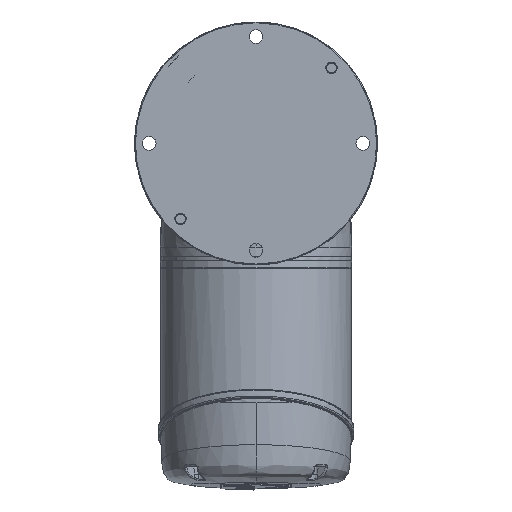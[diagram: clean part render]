
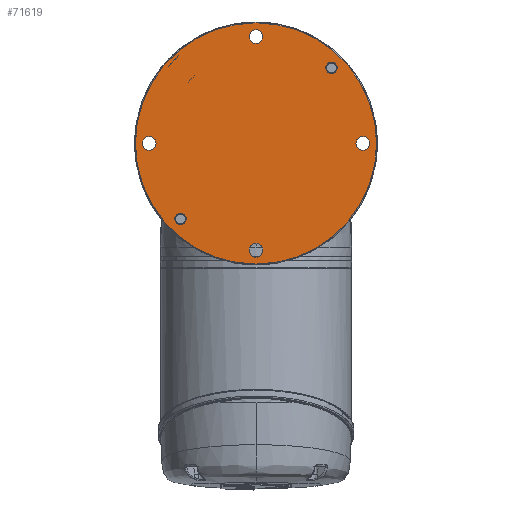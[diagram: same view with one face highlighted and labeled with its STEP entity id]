
A CAD part, front view. The second image highlights one B-rep face of the part: STEP entity #71619.
In plain terms, the highlighted planar face has unit normal (0, -1, 0).
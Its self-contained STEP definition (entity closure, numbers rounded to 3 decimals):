
#397 = VERTEX_POINT ( 'NONE', #81628 ) ;
#960 = EDGE_CURVE ( 'NONE', #16638, #91037, #163017, .T. ) ;
#1590 = ORIENTED_EDGE ( 'NONE', *, *, #100086, .F. ) ;
#3585 = CIRCLE ( 'NONE', #98879, 4.25 ) ;
#3751 = DIRECTION ( 'NONE',  ( 0., 0., 1. ) ) ;
#3990 = DIRECTION ( 'NONE',  ( 0., -1., 0. ) ) ;
#5277 = DIRECTION ( 'NONE',  ( 0., -1., 0. ) ) ;
#7418 = ORIENTED_EDGE ( 'NONE', *, *, #60279, .F. ) ;
#10855 = CARTESIAN_POINT ( 'NONE',  ( 0., 64.08, 190.055 ) ) ;
#11192 = CARTESIAN_POINT ( 'NONE',  ( 66., 64.08, 124.055 ) ) ;
#13084 = EDGE_CURVE ( 'NONE', #76966, #79719, #111145, .T. ) ;
#13887 = DIRECTION ( 'NONE',  ( 0., 0., 1. ) ) ;
#14065 = EDGE_CURVE ( 'NONE', #91037, #16638, #17758, .T. ) ;
#14708 = CARTESIAN_POINT ( 'NONE',  ( 46.669, 64.08, 169.974 ) ) ;
#16638 = VERTEX_POINT ( 'NONE', #43768 ) ;
#17758 = CIRCLE ( 'NONE', #167357, 3.5 ) ;
#25992 = ORIENTED_EDGE ( 'NONE', *, *, #77030, .T. ) ;
#26889 = FACE_BOUND ( 'NONE', #73409, .T. ) ;
#29023 = FACE_BOUND ( 'NONE', #73207, .T. ) ;
#29104 = CARTESIAN_POINT ( 'NONE',  ( 0., 64.08, 49.555 ) ) ;
#30390 = EDGE_LOOP ( 'NONE', ( #123931, #25992 ) ) ;
#30824 = DIRECTION ( 'NONE',  ( 0., 0., -1. ) ) ;
#32173 = DIRECTION ( 'NONE',  ( 0., 0., -1. ) ) ;
#36687 = DIRECTION ( 'NONE',  ( 0., 0., 1. ) ) ;
#38958 = EDGE_CURVE ( 'NONE', #75498, #139771, #125641, .T. ) ;
#39519 = PLANE ( 'NONE',  #163386 ) ;
#41352 = VERTEX_POINT ( 'NONE', #151213 ) ;
#42486 = CARTESIAN_POINT ( 'NONE',  ( -46.669, 64.08, 73.136 ) ) ;
#43768 = CARTESIAN_POINT ( 'NONE',  ( 46.669, 64.08, 162.974 ) ) ;
#43888 = DIRECTION ( 'NONE',  ( 0., 0., -1. ) ) ;
#44127 = EDGE_CURVE ( 'NONE', #79719, #76966, #126532, .T. ) ;
#45660 = ORIENTED_EDGE ( 'NONE', *, *, #63251, .F. ) ;
#45881 = CARTESIAN_POINT ( 'NONE',  ( 66., 64.08, 119.805 ) ) ;
#45890 = CARTESIAN_POINT ( 'NONE',  ( -66., 64.08, 119.805 ) ) ;
#48469 = DIRECTION ( 'NONE',  ( 0., 0., -1. ) ) ;
#48548 = EDGE_CURVE ( 'NONE', #138969, #134099, #75409, .T. ) ;
#49999 = AXIS2_PLACEMENT_3D ( 'NONE', #155409, #91334, #129967 ) ;
#50454 = AXIS2_PLACEMENT_3D ( 'NONE', #86490, #121670, #112607 ) ;
#51461 = DIRECTION ( 'NONE',  ( 0., -1., 0. ) ) ;
#52585 = DIRECTION ( 'NONE',  ( 0., 0., 1. ) ) ;
#53317 = CIRCLE ( 'NONE', #49999, 4.25 ) ;
#53950 = DIRECTION ( 'NONE',  ( 0., 0., -1. ) ) ;
#54433 = DIRECTION ( 'NONE',  ( 0., 1., 0. ) ) ;
#55334 = CIRCLE ( 'NONE', #125973, 4.25 ) ;
#59486 = DIRECTION ( 'NONE',  ( 0., -1., 0. ) ) ;
#60279 = EDGE_CURVE ( 'NONE', #139771, #75498, #74798, .T. ) ;
#61022 = CIRCLE ( 'NONE', #156272, 74.5 ) ;
#63251 = EDGE_CURVE ( 'NONE', #111029, #41352, #3585, .T. ) ;
#67095 = VERTEX_POINT ( 'NONE', #100761 ) ;
#67523 = FACE_OUTER_BOUND ( 'NONE', #30390, .T. ) ;
#68223 = CARTESIAN_POINT ( 'NONE',  ( 0., 64.08, 194.305 ) ) ;
#68777 = CARTESIAN_POINT ( 'NONE',  ( 0., 64.08, 185.805 ) ) ;
#71034 = DIRECTION ( 'NONE',  ( 0., -1., 0. ) ) ;
#71619 = ADVANCED_FACE ( 'NONE', ( #166701, #106110, #67523, #132481, #97904, #29023, #26889 ), #39519, .F. ) ;
#72830 = EDGE_LOOP ( 'NONE', ( #7418, #75388 ) ) ;
#73207 = EDGE_LOOP ( 'NONE', ( #137880, #109155 ) ) ;
#73409 = EDGE_LOOP ( 'NONE', ( #1590, #106361 ) ) ;
#74228 = CARTESIAN_POINT ( 'NONE',  ( -66., 64.08, 115.555 ) ) ;
#74798 = CIRCLE ( 'NONE', #124739, 4.25 ) ;
#75388 = ORIENTED_EDGE ( 'NONE', *, *, #38958, .F. ) ;
#75409 = CIRCLE ( 'NONE', #81472, 4.25 ) ;
#75498 = VERTEX_POINT ( 'NONE', #11192 ) ;
#75694 = AXIS2_PLACEMENT_3D ( 'NONE', #105285, #159614, #3751 ) ;
#76966 = VERTEX_POINT ( 'NONE', #83229 ) ;
#77030 = EDGE_CURVE ( 'NONE', #397, #98668, #61022, .T. ) ;
#78363 = DIRECTION ( 'NONE',  ( 0., 0., 1. ) ) ;
#79239 = CARTESIAN_POINT ( 'NONE',  ( 66., 64.08, 115.555 ) ) ;
#79486 = DIRECTION ( 'NONE',  ( 0., 1., 0. ) ) ;
#79719 = VERTEX_POINT ( 'NONE', #90511 ) ;
#81472 = AXIS2_PLACEMENT_3D ( 'NONE', #45890, #85519, #84969 ) ;
#81628 = CARTESIAN_POINT ( 'NONE',  ( 0., 64.08, 45.305 ) ) ;
#83229 = CARTESIAN_POINT ( 'NONE',  ( -46.669, 64.08, 76.636 ) ) ;
#84969 = DIRECTION ( 'NONE',  ( 0., 0., -1. ) ) ;
#85519 = DIRECTION ( 'NONE',  ( 0., -1., 0. ) ) ;
#86211 = EDGE_LOOP ( 'NONE', ( #104000, #45660 ) ) ;
#86490 = CARTESIAN_POINT ( 'NONE',  ( 46.669, 64.08, 166.474 ) ) ;
#89931 = CARTESIAN_POINT ( 'NONE',  ( 0., 64.08, 119.805 ) ) ;
#90473 = EDGE_LOOP ( 'NONE', ( #157335, #100416 ) ) ;
#90511 = CARTESIAN_POINT ( 'NONE',  ( -46.669, 64.08, 69.636 ) ) ;
#91037 = VERTEX_POINT ( 'NONE', #14708 ) ;
#91226 = ORIENTED_EDGE ( 'NONE', *, *, #14065, .T. ) ;
#91334 = DIRECTION ( 'NONE',  ( 0., -1., 0. ) ) ;
#92521 = CARTESIAN_POINT ( 'NONE',  ( 46.669, 64.08, 166.474 ) ) ;
#95827 = CIRCLE ( 'NONE', #163228, 4.25 ) ;
#96075 = AXIS2_PLACEMENT_3D ( 'NONE', #45881, #59486, #164833 ) ;
#97904 = FACE_BOUND ( 'NONE', #72830, .T. ) ;
#98532 = EDGE_CURVE ( 'NONE', #41352, #111029, #55334, .T. ) ;
#98668 = VERTEX_POINT ( 'NONE', #68223 ) ;
#98879 = AXIS2_PLACEMENT_3D ( 'NONE', #145191, #3990, #53950 ) ;
#100086 = EDGE_CURVE ( 'NONE', #134099, #138969, #53317, .T. ) ;
#100416 = ORIENTED_EDGE ( 'NONE', *, *, #13084, .T. ) ;
#100761 = CARTESIAN_POINT ( 'NONE',  ( 0., 64.08, 58.055 ) ) ;
#101154 = ORIENTED_EDGE ( 'NONE', *, *, #960, .T. ) ;
#104000 = ORIENTED_EDGE ( 'NONE', *, *, #98532, .F. ) ;
#104069 = DIRECTION ( 'NONE',  ( 0., -1., 0. ) ) ;
#104630 = CARTESIAN_POINT ( 'NONE',  ( 0., 64.08, 119.805 ) ) ;
#105285 = CARTESIAN_POINT ( 'NONE',  ( -46.669, 64.08, 73.136 ) ) ;
#106110 = FACE_BOUND ( 'NONE', #160735, .T. ) ;
#106361 = ORIENTED_EDGE ( 'NONE', *, *, #48548, .F. ) ;
#109155 = ORIENTED_EDGE ( 'NONE', *, *, #154457, .F. ) ;
#109830 = DIRECTION ( 'NONE',  ( 0., -1., 0. ) ) ;
#111029 = VERTEX_POINT ( 'NONE', #10855 ) ;
#111145 = CIRCLE ( 'NONE', #113970, 3.5 ) ;
#112607 = DIRECTION ( 'NONE',  ( 0., 0., 1. ) ) ;
#113970 = AXIS2_PLACEMENT_3D ( 'NONE', #42486, #54433, #157548 ) ;
#115874 = CARTESIAN_POINT ( 'NONE',  ( 66., 64.08, 119.805 ) ) ;
#117758 = CARTESIAN_POINT ( 'NONE',  ( 0., 64.08, 119.805 ) ) ;
#121537 = CARTESIAN_POINT ( 'NONE',  ( 0., 64.08, 53.805 ) ) ;
#121670 = DIRECTION ( 'NONE',  ( 0., 1., 0. ) ) ;
#122315 = CARTESIAN_POINT ( 'NONE',  ( 0., 64.08, 53.805 ) ) ;
#123931 = ORIENTED_EDGE ( 'NONE', *, *, #161453, .T. ) ;
#123981 = CIRCLE ( 'NONE', #163479, 4.25 ) ;
#124739 = AXIS2_PLACEMENT_3D ( 'NONE', #115874, #126119, #48469 ) ;
#125641 = CIRCLE ( 'NONE', #96075, 4.25 ) ;
#125973 = AXIS2_PLACEMENT_3D ( 'NONE', #68777, #5277, #30824 ) ;
#126119 = DIRECTION ( 'NONE',  ( 0., -1., 0. ) ) ;
#126532 = CIRCLE ( 'NONE', #75694, 3.5 ) ;
#129967 = DIRECTION ( 'NONE',  ( 0., 0., -1. ) ) ;
#130270 = DIRECTION ( 'NONE',  ( 0., 1., 0. ) ) ;
#132481 = FACE_BOUND ( 'NONE', #86211, .T. ) ;
#134099 = VERTEX_POINT ( 'NONE', #74228 ) ;
#137880 = ORIENTED_EDGE ( 'NONE', *, *, #150645, .F. ) ;
#138969 = VERTEX_POINT ( 'NONE', #167117 ) ;
#139771 = VERTEX_POINT ( 'NONE', #79239 ) ;
#141999 = VERTEX_POINT ( 'NONE', #29104 ) ;
#145191 = CARTESIAN_POINT ( 'NONE',  ( 0., 64.08, 185.805 ) ) ;
#150645 = EDGE_CURVE ( 'NONE', #141999, #67095, #95827, .T. ) ;
#151213 = CARTESIAN_POINT ( 'NONE',  ( 0., 64.08, 181.555 ) ) ;
#154070 = AXIS2_PLACEMENT_3D ( 'NONE', #104630, #104069, #13887 ) ;
#154076 = CIRCLE ( 'NONE', #154070, 74.5 ) ;
#154457 = EDGE_CURVE ( 'NONE', #67095, #141999, #123981, .T. ) ;
#155409 = CARTESIAN_POINT ( 'NONE',  ( -66., 64.08, 119.805 ) ) ;
#156272 = AXIS2_PLACEMENT_3D ( 'NONE', #89931, #51461, #36687 ) ;
#157335 = ORIENTED_EDGE ( 'NONE', *, *, #44127, .T. ) ;
#157548 = DIRECTION ( 'NONE',  ( 0., 0., 1. ) ) ;
#159614 = DIRECTION ( 'NONE',  ( 0., 1., 0. ) ) ;
#160735 = EDGE_LOOP ( 'NONE', ( #101154, #91226 ) ) ;
#161453 = EDGE_CURVE ( 'NONE', #98668, #397, #154076, .T. ) ;
#163017 = CIRCLE ( 'NONE', #50454, 3.5 ) ;
#163228 = AXIS2_PLACEMENT_3D ( 'NONE', #121537, #71034, #43888 ) ;
#163386 = AXIS2_PLACEMENT_3D ( 'NONE', #117758, #130270, #52585 ) ;
#163479 = AXIS2_PLACEMENT_3D ( 'NONE', #122315, #109830, #32173 ) ;
#164833 = DIRECTION ( 'NONE',  ( 0., 0., -1. ) ) ;
#166701 = FACE_BOUND ( 'NONE', #90473, .T. ) ;
#167117 = CARTESIAN_POINT ( 'NONE',  ( -66., 64.08, 124.055 ) ) ;
#167357 = AXIS2_PLACEMENT_3D ( 'NONE', #92521, #79486, #78363 ) ;
